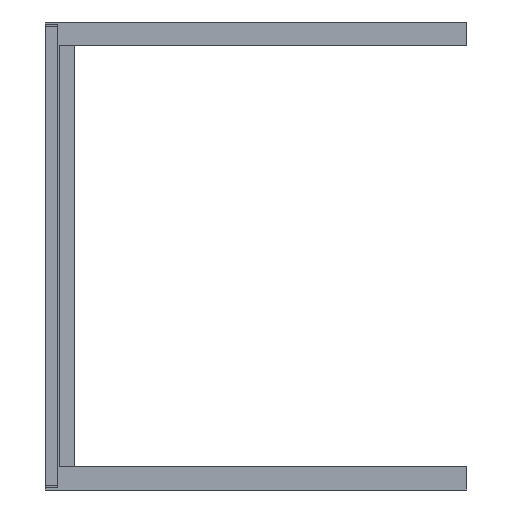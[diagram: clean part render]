
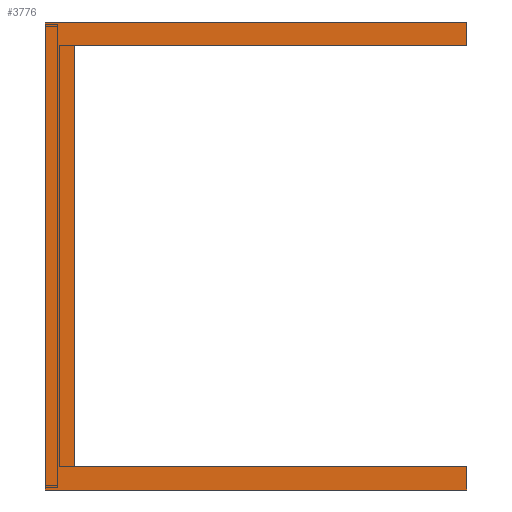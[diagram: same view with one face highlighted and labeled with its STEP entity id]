
A CAD part, left-side view. The second image highlights one B-rep face of the part: STEP entity #3776.
In plain terms, the highlighted planar face has unit normal (-1, 0, 0).
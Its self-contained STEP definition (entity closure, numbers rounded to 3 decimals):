
#308=FACE_OUTER_BOUND('',#478,.T.);
#478=EDGE_LOOP('',(#3395,#3396,#3397,#3398,#3399,#3400,#3401,#3402));
#968=LINE('',#5764,#1496);
#982=LINE('',#5791,#1510);
#987=LINE('',#5801,#1515);
#989=LINE('',#5805,#1517);
#996=LINE('',#5819,#1524);
#999=LINE('',#5826,#1527);
#1000=LINE('',#5827,#1528);
#1001=LINE('',#5828,#1529);
#1496=VECTOR('',#4747,10.);
#1510=VECTOR('',#4771,10.);
#1515=VECTOR('',#4780,10.);
#1517=VECTOR('',#4784,10.);
#1524=VECTOR('',#4797,10.);
#1527=VECTOR('',#4804,10.);
#1528=VECTOR('',#4805,10.);
#1529=VECTOR('',#4806,10.);
#1841=VERTEX_POINT('',#5761);
#1842=VERTEX_POINT('',#5763);
#1847=VERTEX_POINT('',#5784);
#1850=VERTEX_POINT('',#5789);
#1853=VERTEX_POINT('',#5799);
#1854=VERTEX_POINT('',#5803);
#1859=VERTEX_POINT('',#5824);
#1860=VERTEX_POINT('',#5825);
#2348=EDGE_CURVE('',#1842,#1841,#968,.T.);
#2362=EDGE_CURVE('',#1850,#1847,#982,.T.);
#2367=EDGE_CURVE('',#1853,#1842,#987,.T.);
#2369=EDGE_CURVE('',#1853,#1854,#989,.T.);
#2376=EDGE_CURVE('',#1854,#1850,#996,.T.);
#2379=EDGE_CURVE('',#1859,#1860,#999,.T.);
#2380=EDGE_CURVE('',#1860,#1847,#1000,.T.);
#2381=EDGE_CURVE('',#1859,#1841,#1001,.T.);
#3395=ORIENTED_EDGE('',*,*,#2379,.T.);
#3396=ORIENTED_EDGE('',*,*,#2380,.T.);
#3397=ORIENTED_EDGE('',*,*,#2362,.F.);
#3398=ORIENTED_EDGE('',*,*,#2376,.F.);
#3399=ORIENTED_EDGE('',*,*,#2369,.F.);
#3400=ORIENTED_EDGE('',*,*,#2367,.T.);
#3401=ORIENTED_EDGE('',*,*,#2348,.T.);
#3402=ORIENTED_EDGE('',*,*,#2381,.F.);
#3609=PLANE('',#3963);
#3776=ADVANCED_FACE('',(#308),#3609,.T.);
#3963=AXIS2_PLACEMENT_3D('',#5823,#4802,#4803);
#4747=DIRECTION('',(0.,0.,1.));
#4771=DIRECTION('',(0.,0.,1.));
#4780=DIRECTION('',(0.,1.,0.));
#4784=DIRECTION('',(0.,0.,-1.));
#4797=DIRECTION('',(0.,1.,0.));
#4802=DIRECTION('center_axis',(-1.,0.,0.));
#4803=DIRECTION('ref_axis',(0.,0.,1.));
#4804=DIRECTION('',(0.,0.,1.));
#4805=DIRECTION('',(0.,1.,0.));
#4806=DIRECTION('',(0.,1.,0.));
#5761=CARTESIAN_POINT('',(-807.5,670.,360.));
#5763=CARTESIAN_POINT('',(-807.5,670.,-360.));
#5764=CARTESIAN_POINT('',(-807.5,670.,-400.));
#5784=CARTESIAN_POINT('',(-807.5,720.,400.));
#5789=CARTESIAN_POINT('',(-807.5,720.,-400.));
#5791=CARTESIAN_POINT('',(-807.5,720.,-400.));
#5799=CARTESIAN_POINT('',(-807.5,0.,-360.));
#5801=CARTESIAN_POINT('',(-807.5,0.,-360.));
#5803=CARTESIAN_POINT('',(-807.5,0.,-400.));
#5805=CARTESIAN_POINT('',(-807.5,0.,-360.));
#5819=CARTESIAN_POINT('',(-807.5,0.,-400.));
#5823=CARTESIAN_POINT('Origin',(-807.5,0.,360.));
#5824=CARTESIAN_POINT('',(-807.5,0.,360.));
#5825=CARTESIAN_POINT('',(-807.5,0.,400.));
#5826=CARTESIAN_POINT('',(-807.5,0.,360.));
#5827=CARTESIAN_POINT('',(-807.5,0.,400.));
#5828=CARTESIAN_POINT('',(-807.5,0.,360.));
